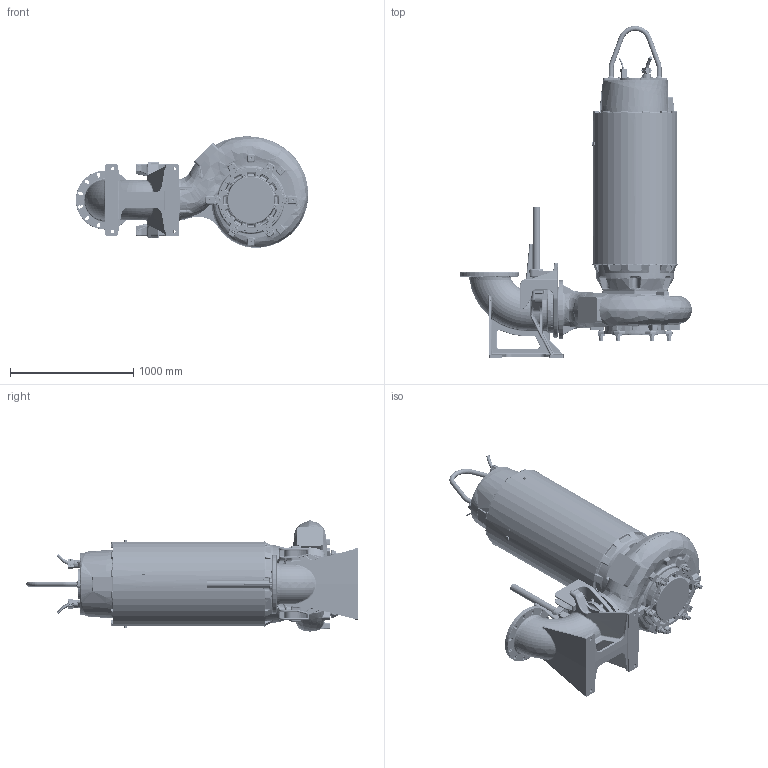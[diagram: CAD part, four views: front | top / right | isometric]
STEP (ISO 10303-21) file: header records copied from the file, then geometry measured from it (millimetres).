
FILE_DESCRIPTION (( 'STEP AP214' ), '1' );
FILE_NAME ('PE6_XFP306M-CB2_WET_C_NG2.STEP', '2017-03-21T12:31:03', ( '' ), ( '' ), 'SwSTEP 2.0', 'SolidWorks 2017', '' );
FILE_SCHEMA (( 'AUTOMOTIVE_DESIGN' ));
Length unit declared in the file: millimetre
Products named in the file (1): PE6_XFP306M-CB2_WET_C_NG2
Bounding box: 1889.63 x 2698 x 906.41 mm (x, y, z)
Volume: 98008019.8 mm3; surface area: 10940410.1 mm2
Topology: 34 solids, 35 shells, 5917 faces, 14489 edges, 8462 vertices
Faces by surface type: cylinder 1554, bspline 1518, plane 1340, torus 667, cone 614, sphere 224
Entity records: 333536 total; most frequent: CARTESIAN_POINT 142475, ORIENTED_EDGE 28340, DIRECTION 24059, EDGE_CURVE 14170, AXIS2_PLACEMENT_3D 9822, VERTEX_POINT 8454, EDGE_LOOP 6234, UNCERTAINTY_MEASURE_WITH_UNIT 5924
